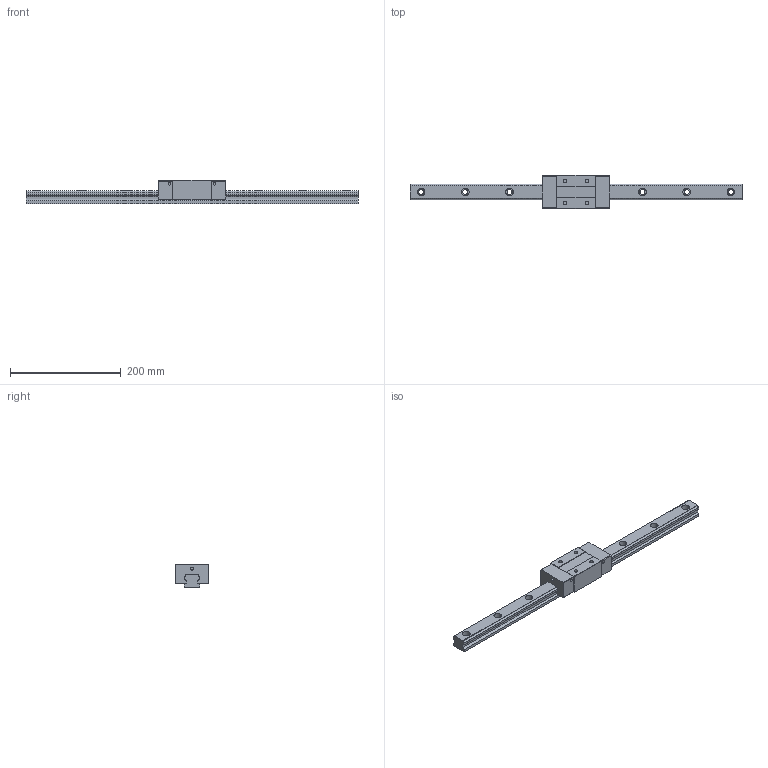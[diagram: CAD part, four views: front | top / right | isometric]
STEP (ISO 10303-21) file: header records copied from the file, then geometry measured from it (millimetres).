
FILE_DESCRIPTION (( 'STEP AP203' ), '1' );
FILE_NAME ('TRS30VN-DZ.STEP', '2024-06-28T07:26:38', ( '' ), ( '' ), 'SwSTEP 2.0', 'SolidWorks 2022', '' );
FILE_SCHEMA (( 'CONFIG_CONTROL_DESIGN' ));
Length unit declared in the file: millimetre
Products named in the file (1): TRS30VN-DZ
Bounding box: 600 x 60 x 42 mm (x, y, z)
Volume: 521976.9 mm3; surface area: 102218.8 mm2
Topology: 2 solids, 2 shells, 178 faces, 464 edges, 308 vertices
Faces by surface type: plane 90, cylinder 88
Entity records: 5619 total; most frequent: DIRECTION 998, CARTESIAN_POINT 951, ORIENTED_EDGE 928, EDGE_CURVE 464, AXIS2_PLACEMENT_3D 355, VERTEX_POINT 308, LINE 288, VECTOR 288
